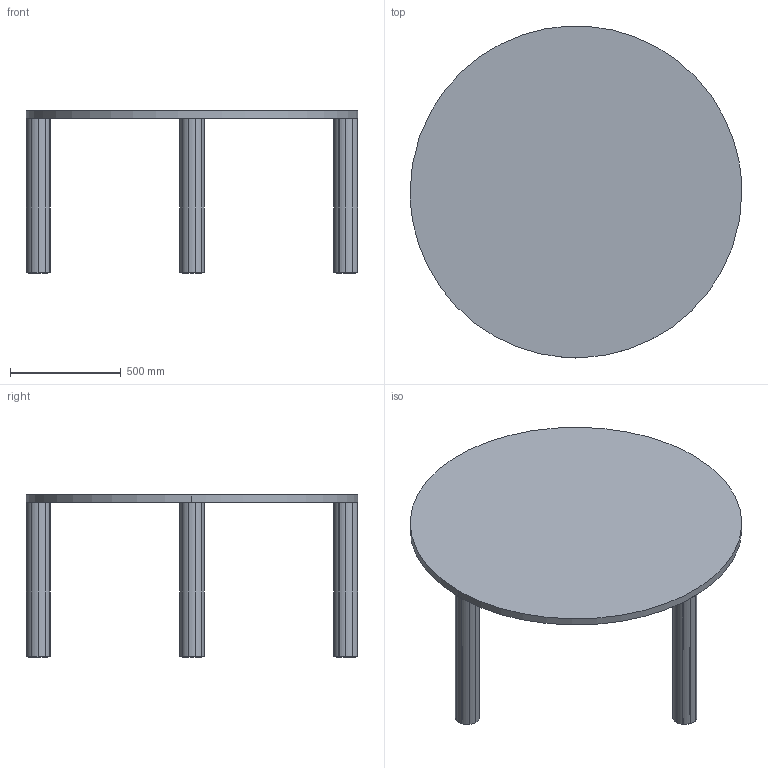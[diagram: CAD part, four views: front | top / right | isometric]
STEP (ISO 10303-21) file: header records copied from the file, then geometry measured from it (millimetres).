
FILE_DESCRIPTION(/* description */ (''),/* implementation_level */ '2;1');
FILE_NAME(/* name */ 'Post Dinning_3D',/* time_stamp */ '2022-05-27T11:03:54+02:00',/* author */ (''),/* organization */ (''),/* preprocessor_version */ 'ST-DEVELOPER v16.5',/* originating_system */ 'Rhino 7.18',/* authorisation */ '');
FILE_SCHEMA (('CONFIG_CONTROL_DESIGN'));
Length unit declared in the file: millimetre
Products named in the file (1): Document
Bounding box: 1500 x 1499.91 x 733 mm (x, y, z)
Volume: 82484639.4 mm3; surface area: 6567690.9 mm2
Topology: 21 solids, 69 shells, 484 faces, 1286 edges, 856 vertices
Faces by surface type: cylinder 302, plane 150, bspline 32
Entity records: 52698 total; most frequent: CARTESIAN_POINT 44555, ORIENTED_EDGE 2232, EDGE_CURVE 1286, VERTEX_POINT 856, B_SPLINE_CURVE_WITH_KNOTS 704, EDGE_LOOP 500, ADVANCED_FACE 484, FACE_OUTER_BOUND 484
